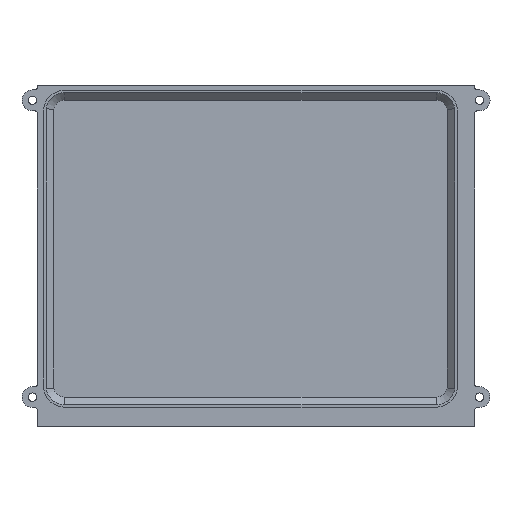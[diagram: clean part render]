
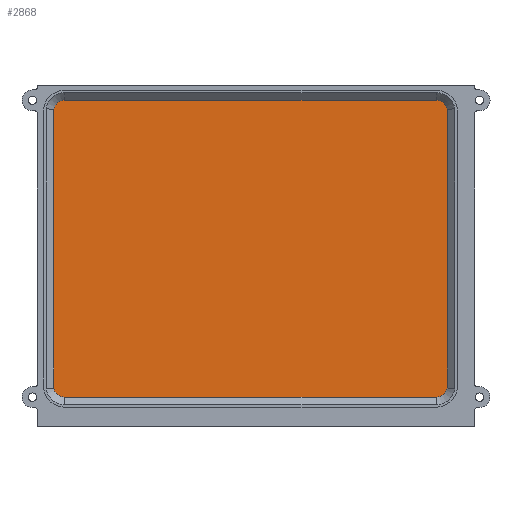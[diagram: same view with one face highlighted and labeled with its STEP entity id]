
A CAD part, top view. The second image highlights one B-rep face of the part: STEP entity #2868.
In plain terms, the highlighted planar face has unit normal (0, 0, 1).
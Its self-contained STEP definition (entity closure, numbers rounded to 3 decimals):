
#186=PLANE('',#3171);
#330=FACE_OUTER_BOUND('',#508,.T.);
#508=EDGE_LOOP('',(#2259,#2260,#2261,#2262,#2263,#2264,#2265,#2266));
#738=LINE('',#4694,#964);
#739=LINE('',#4698,#965);
#740=LINE('',#4702,#966);
#741=LINE('',#4705,#967);
#964=VECTOR('',#3851,10.);
#965=VECTOR('',#3854,10.);
#966=VECTOR('',#3857,10.);
#967=VECTOR('',#3860,10.);
#1175=CIRCLE('',#3172,3.31);
#1176=CIRCLE('',#3173,3.31);
#1177=CIRCLE('',#3174,3.31);
#1178=CIRCLE('',#3175,3.31);
#1385=VERTEX_POINT('',#4690);
#1386=VERTEX_POINT('',#4691);
#1387=VERTEX_POINT('',#4693);
#1388=VERTEX_POINT('',#4695);
#1389=VERTEX_POINT('',#4697);
#1390=VERTEX_POINT('',#4699);
#1391=VERTEX_POINT('',#4701);
#1392=VERTEX_POINT('',#4703);
#1718=EDGE_CURVE('',#1385,#1386,#1175,.T.);
#1719=EDGE_CURVE('',#1386,#1387,#738,.T.);
#1720=EDGE_CURVE('',#1387,#1388,#1176,.T.);
#1721=EDGE_CURVE('',#1388,#1389,#739,.T.);
#1722=EDGE_CURVE('',#1389,#1390,#1177,.T.);
#1723=EDGE_CURVE('',#1390,#1391,#740,.T.);
#1724=EDGE_CURVE('',#1391,#1392,#1178,.T.);
#1725=EDGE_CURVE('',#1392,#1385,#741,.T.);
#2259=ORIENTED_EDGE('',*,*,#1718,.T.);
#2260=ORIENTED_EDGE('',*,*,#1719,.T.);
#2261=ORIENTED_EDGE('',*,*,#1720,.T.);
#2262=ORIENTED_EDGE('',*,*,#1721,.T.);
#2263=ORIENTED_EDGE('',*,*,#1722,.T.);
#2264=ORIENTED_EDGE('',*,*,#1723,.T.);
#2265=ORIENTED_EDGE('',*,*,#1724,.T.);
#2266=ORIENTED_EDGE('',*,*,#1725,.T.);
#2868=ADVANCED_FACE('',(#330),#186,.F.);
#3171=AXIS2_PLACEMENT_3D('',#4689,#3847,#3848);
#3172=AXIS2_PLACEMENT_3D('',#4692,#3849,#3850);
#3173=AXIS2_PLACEMENT_3D('',#4696,#3852,#3853);
#3174=AXIS2_PLACEMENT_3D('',#4700,#3855,#3856);
#3175=AXIS2_PLACEMENT_3D('',#4704,#3858,#3859);
#3847=DIRECTION('center_axis',(0.,0.,-1.));
#3848=DIRECTION('ref_axis',(-1.,0.,0.));
#3849=DIRECTION('center_axis',(0.,0.,1.));
#3850=DIRECTION('ref_axis',(-1.,0.,0.));
#3851=DIRECTION('',(-1.,0.,0.));
#3852=DIRECTION('center_axis',(0.,0.,1.));
#3853=DIRECTION('ref_axis',(0.,-1.,0.));
#3854=DIRECTION('',(0.,-1.,0.));
#3855=DIRECTION('center_axis',(0.,0.,1.));
#3856=DIRECTION('ref_axis',(1.,0.,0.));
#3857=DIRECTION('',(1.,0.,0.));
#3858=DIRECTION('center_axis',(0.,0.,1.));
#3859=DIRECTION('ref_axis',(0.,1.,0.));
#3860=DIRECTION('',(0.,1.,0.));
#4689=CARTESIAN_POINT('Origin',(0.,0.,0.));
#4690=CARTESIAN_POINT('',(56.94,43.666,0.));
#4691=CARTESIAN_POINT('',(53.685,46.375,0.));
#4692=CARTESIAN_POINT('Origin',(53.685,43.065,0.));
#4693=CARTESIAN_POINT('',(-57.015,46.375,0.));
#4694=CARTESIAN_POINT('',(-29.135,46.375,0.));
#4695=CARTESIAN_POINT('',(-60.27,43.666,0.));
#4696=CARTESIAN_POINT('Origin',(-57.015,43.065,0.));
#4697=CARTESIAN_POINT('',(-60.27,-39.336,0.));
#4698=CARTESIAN_POINT('',(-60.27,-20.022,0.));
#4699=CARTESIAN_POINT('',(-57.015,-42.045,0.));
#4700=CARTESIAN_POINT('Origin',(-57.015,-38.735,0.));
#4701=CARTESIAN_POINT('',(53.685,-42.045,0.));
#4702=CARTESIAN_POINT('',(27.47,-42.045,0.));
#4703=CARTESIAN_POINT('',(56.94,-39.336,0.));
#4704=CARTESIAN_POINT('Origin',(53.685,-38.735,0.));
#4705=CARTESIAN_POINT('',(56.94,22.187,0.));
